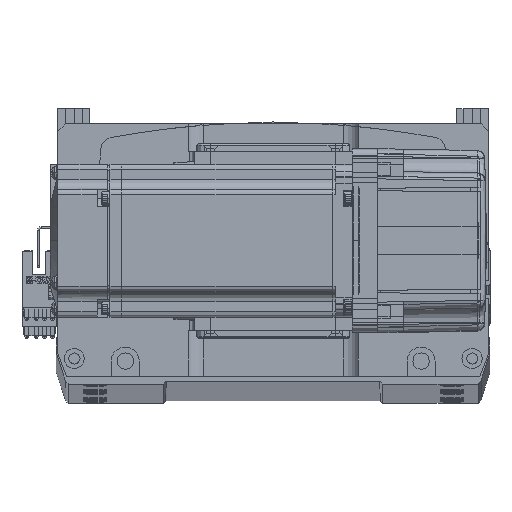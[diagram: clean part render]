
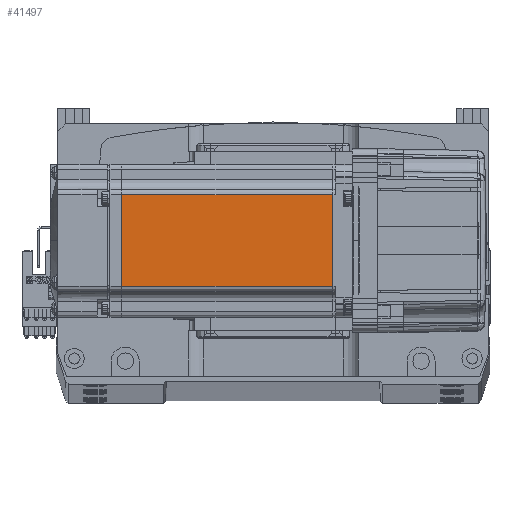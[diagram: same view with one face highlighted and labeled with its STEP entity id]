
A CAD part, top view. The second image highlights one B-rep face of the part: STEP entity #41497.
In plain terms, the highlighted planar face has unit normal (0, 0, 1).
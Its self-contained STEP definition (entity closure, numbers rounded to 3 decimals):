
#1928 = VECTOR ( 'NONE', #3232, 1000. ) ;
#3232 = DIRECTION ( 'NONE',  ( 0., -1., 0. ) ) ;
#4857 = LINE ( 'NONE', #46940, #17860 ) ;
#5751 = CARTESIAN_POINT ( 'NONE',  ( -7.75, -18., 30. ) ) ;
#6488 = DIRECTION ( 'NONE',  ( -1., 0., 0. ) ) ;
#8511 = ORIENTED_EDGE ( 'NONE', *, *, #16219, .F. ) ;
#10737 = ORIENTED_EDGE ( 'NONE', *, *, #59179, .T. ) ;
#13062 = DIRECTION ( 'NONE',  ( 1., 0., 0. ) ) ;
#14366 = ORIENTED_EDGE ( 'NONE', *, *, #73529, .F. ) ;
#16219 = EDGE_CURVE ( 'NONE', #48623, #26623, #48962, .T. ) ;
#17860 = VECTOR ( 'NONE', #34853, 1000. ) ;
#22961 = LINE ( 'NONE', #52635, #29374 ) ;
#23909 = FACE_OUTER_BOUND ( 'NONE', #51000, .T. ) ;
#24949 = AXIS2_PLACEMENT_3D ( 'NONE', #54792, #54527, #13062 ) ;
#26532 = CARTESIAN_POINT ( 'NONE',  ( -90.45, 18., 30. ) ) ;
#26623 = VERTEX_POINT ( 'NONE', #5751 ) ;
#27196 = CARTESIAN_POINT ( 'NONE',  ( -7.75, 0., 30. ) ) ;
#29374 = VECTOR ( 'NONE', #69673, 1000. ) ;
#29797 = VERTEX_POINT ( 'NONE', #73663 ) ;
#34853 = DIRECTION ( 'NONE',  ( -1., 0., 0. ) ) ;
#35647 = CARTESIAN_POINT ( 'NONE',  ( -6.5, 18., 30. ) ) ;
#41497 = ADVANCED_FACE ( 'NONE', ( #23909 ), #60955, .T. ) ;
#41781 = EDGE_CURVE ( 'NONE', #49199, #29797, #22961, .T. ) ;
#46940 = CARTESIAN_POINT ( 'NONE',  ( -6.5, -18., 30. ) ) ;
#48623 = VERTEX_POINT ( 'NONE', #66739 ) ;
#48962 = LINE ( 'NONE', #27196, #1928 ) ;
#49199 = VERTEX_POINT ( 'NONE', #26532 ) ;
#50085 = VECTOR ( 'NONE', #6488, 1000. ) ;
#51000 = EDGE_LOOP ( 'NONE', ( #8511, #10737, #67545, #14366 ) ) ;
#52635 = CARTESIAN_POINT ( 'NONE',  ( -90.45, 0., 30. ) ) ;
#54527 = DIRECTION ( 'NONE',  ( 0., 0., 1. ) ) ;
#54792 = CARTESIAN_POINT ( 'NONE',  ( -6.5, -25., 30. ) ) ;
#59179 = EDGE_CURVE ( 'NONE', #48623, #49199, #69486, .T. ) ;
#60955 = PLANE ( 'NONE',  #24949 ) ;
#66739 = CARTESIAN_POINT ( 'NONE',  ( -7.75, 18., 30. ) ) ;
#67545 = ORIENTED_EDGE ( 'NONE', *, *, #41781, .T. ) ;
#69486 = LINE ( 'NONE', #35647, #50085 ) ;
#69673 = DIRECTION ( 'NONE',  ( 0., -1., 0. ) ) ;
#73529 = EDGE_CURVE ( 'NONE', #26623, #29797, #4857, .T. ) ;
#73663 = CARTESIAN_POINT ( 'NONE',  ( -90.45, -18., 30. ) ) ;
